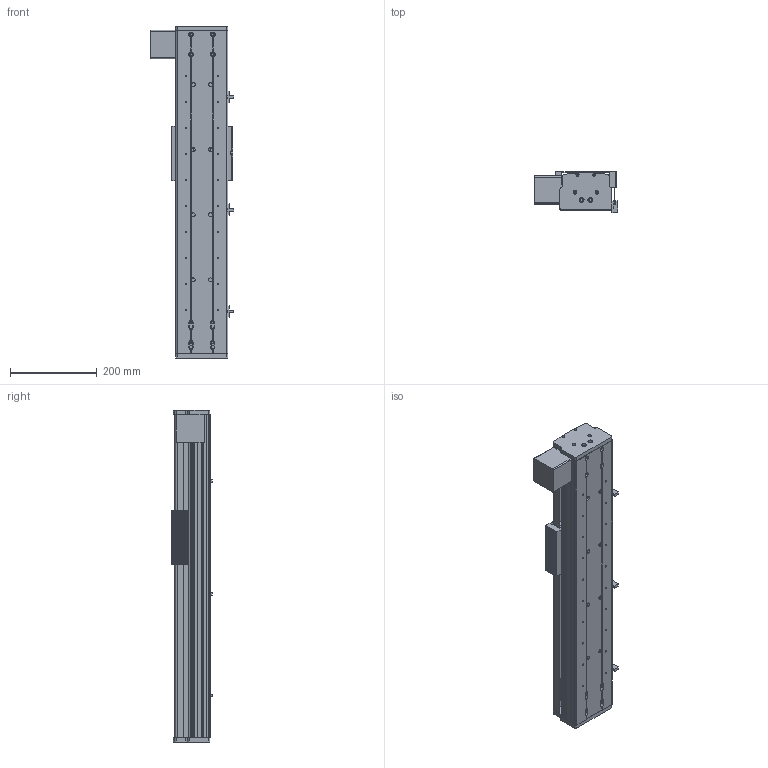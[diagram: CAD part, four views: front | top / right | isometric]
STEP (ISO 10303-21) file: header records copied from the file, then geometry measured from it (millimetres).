
FILE_DESCRIPTION (( 'STEP AP214' ), '1' );
FILE_NAME ('CF120B-D-450-FWL.STEP', '2020-01-15T07:24:34', ( '微软用户' ), ( '微软中国' ), 'SwSTEP 2.0', 'SolidWorks 2016', '' );
FILE_SCHEMA (( 'AUTOMOTIVE_DESIGN' ));
Length unit declared in the file: millimetre
Products named in the file (14): CF120B耜啣萇儂傷; CF120B耜啣; CF120B裔啣-450; CF120B賑雄啣; CF120-B賑雄輸; EGR15絳寢-450; EGH-15-CABZnew; CF120B臏倰第-450; CF120B-D-450-FWL; 嫖萇羲壽; 75-86-95癹弇羲壽覜茼え; 6060-3232源臏奪-植雄釱; 6060-3232源臏奪-萇儂釱; 6060-3232源臏奪-翋雄釱
Assembly tree (19 placements, depth 2):
  CF120B-D-450-FWL
    CF120B臏倰第-450
    EGH-15-CABZnew  x4
    EGR15絳寢-450  x2
    CF120-B賑雄輸
    CF120B賑雄啣
    CF120B裔啣-450
    CF120B耜啣
    CF120B耜啣萇儂傷
    6060-3232源臏奪-翋雄釱
    6060-3232源臏奪-萇儂釱
    6060-3232源臏奪-植雄釱
    75-86-95癹弇羲壽覜茼え
    嫖萇羲壽  x3
Bounding box: 193.1 x 93.85 x 765 mm (x, y, z)
Volume: 3598461.6 mm3; surface area: 1211388 mm2
Topology: 15 solids, 67 shells, 7315 faces, 27714 edges, 19076 vertices
Faces by surface type: plane 3608, bspline 2348, cylinder 1007, cone 128, torus 128, sphere 96
Entity records: 131780 total; most frequent: CARTESIAN_POINT 42157, ORIENTED_EDGE 15588, DIRECTION 12363, EDGE_CURVE 8918, VERTEX_POINT 6103, VECTOR 5261, LINE 5261, AXIS2_PLACEMENT_3D 3551
